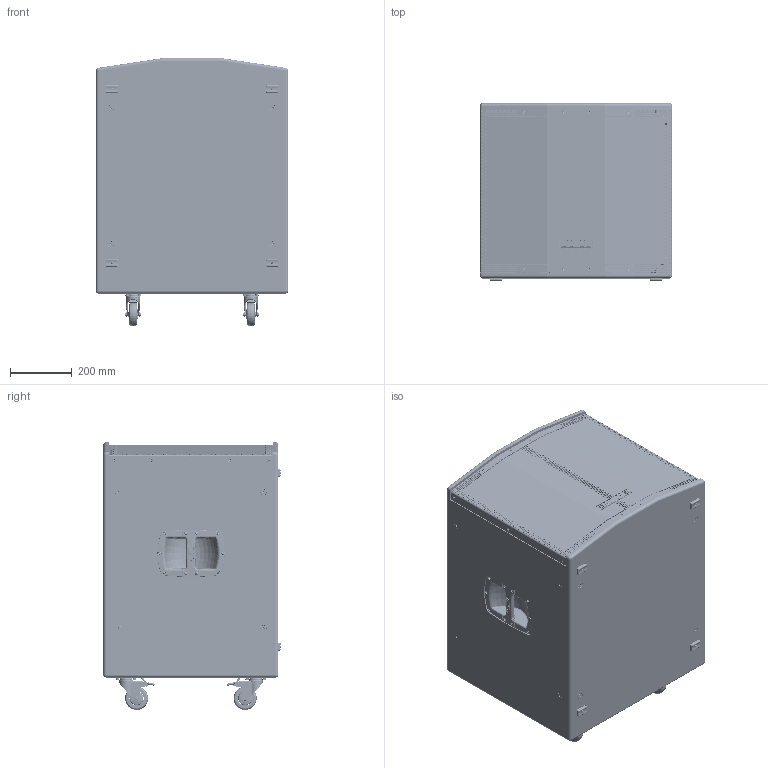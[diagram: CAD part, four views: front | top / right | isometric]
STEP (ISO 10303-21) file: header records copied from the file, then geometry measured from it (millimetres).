
FILE_DESCRIPTION (( 'STEP AP214' ), '1' );
FILE_NAME ('BL18S-R0.1(1).STEP', '2024-12-06T12:47:47', ( '' ), ( '' ), 'SwSTEP 2.0', 'SolidWorks 2024', '' );
FILE_SCHEMA (( 'AUTOMOTIVE_DESIGN' ));
Length unit declared in the file: millimetre
Products named in the file (2): BL18S-R0.1(1); Default_defeature^BL18S
Assembly tree (1 placements, depth 2):
  BL18S-R0.1(1)
    Default_defeature^BL18S
Bounding box: 622.06 x 573.46 x 866.52 mm (x, y, z)
Volume: 41294320.4 mm3; surface area: 6896136.1 mm2
Topology: 232 solids, 232 shells, 17148 faces, 45630 edges, 28560 vertices
Faces by surface type: plane 6410, cylinder 6011, bspline 2164, torus 1530, cone 724, sphere 309
Entity records: 660053 total; most frequent: CARTESIAN_POINT 246689, ORIENTED_EDGE 90478, DIRECTION 80659, EDGE_CURVE 45239, AXIS2_PLACEMENT_3D 29901, VERTEX_POINT 28448, LINE 20857, VECTOR 20857
